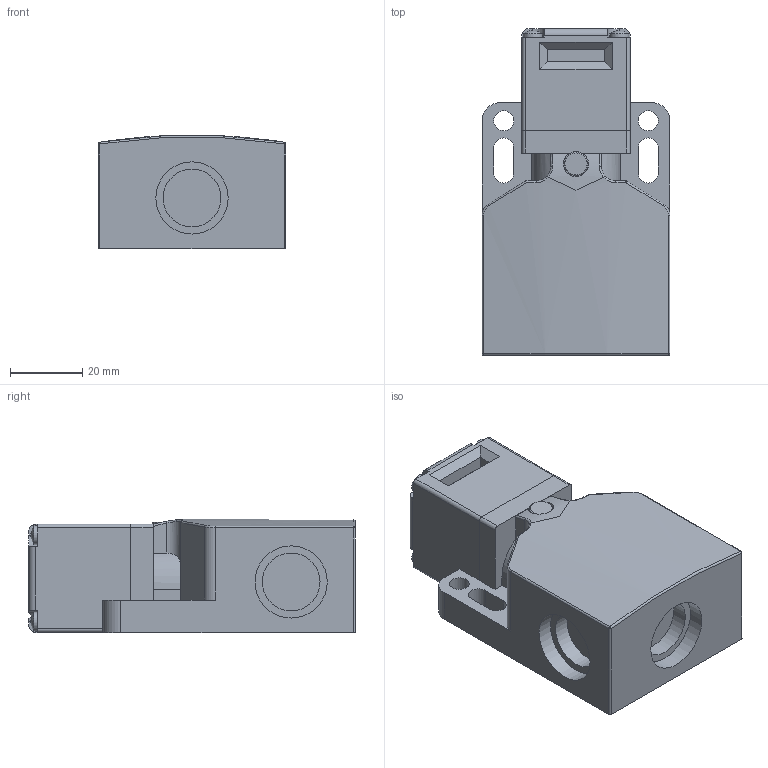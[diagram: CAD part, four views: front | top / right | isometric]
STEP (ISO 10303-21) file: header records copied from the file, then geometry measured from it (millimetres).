
FILE_DESCRIPTION((''),'2;1');
FILE_NAME('M:\INVENTORjob\Temp STEP-Dateien\Inventordateien_ipt\63000102_S20-P1C3-M20.LH.stp','2009-05-05T10:09:08',('sloesch'),(''),'Autodesk Inventor 2008','Autodesk Inventor 2008','');
FILE_SCHEMA(('AUTOMOTIVE_DESIGN { 1 0 10303 214 1 1 1 1 }'));
Length unit declared in the file: millimetre
Products named in the file (3): 63000102_S20-P1C3-M20.LH; 63000102-2_S20-xxC3_head_S20-xxC3_head; 63000102-1_S20-xxC3
Assembly tree (2 placements, depth 2):
  63000102_S20-P1C3-M20.LH
    63000102-2_S20-xxC3_head_S20-xxC3_head
    63000102-1_S20-xxC3
Bounding box: 52 x 90.5 x 31.5 mm (x, y, z)
Volume: 104646.4 mm3; surface area: 25139.3 mm2
Topology: 2 solids, 2 shells, 149 faces, 388 edges, 251 vertices
Faces by surface type: plane 81, cylinder 47, bspline 8, sphere 7, torus 6
Full cylindrical faces by diameter (mm): 5.3 x4, 5.5 x2, 6.5 x1, 7 x1, 16 x3, 20 x3
Entity records: 4882 total; most frequent: CARTESIAN_POINT 1287, DIRECTION 722, ORIENTED_EDGE 716, EDGE_CURVE 358, AXIS2_PLACEMENT_3D 253, VERTEX_POINT 240, VECTOR 216, LINE 216
